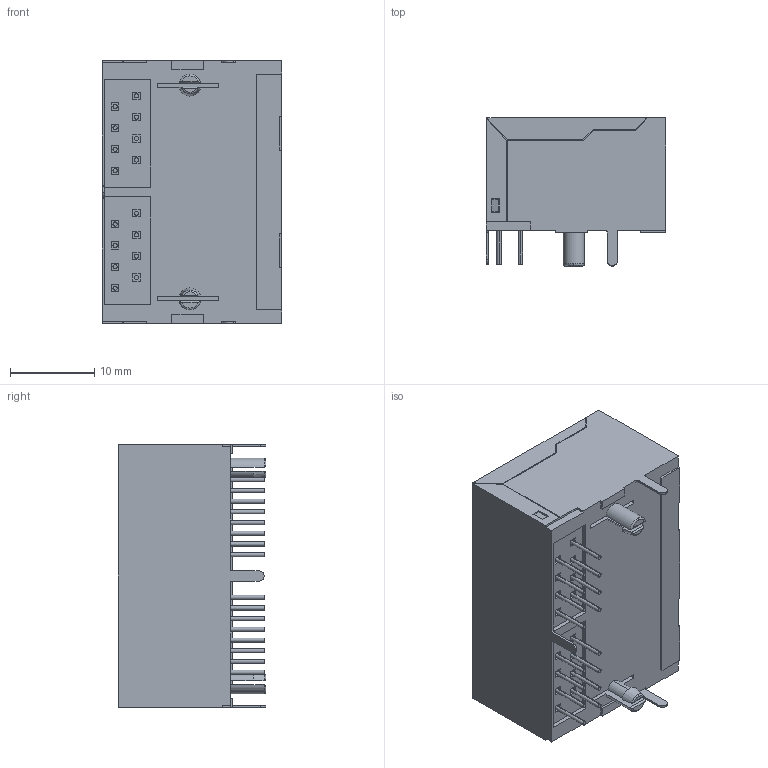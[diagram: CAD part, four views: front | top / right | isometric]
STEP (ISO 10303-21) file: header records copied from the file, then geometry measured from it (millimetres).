
FILE_DESCRIPTION (( 'STEP AP203' ), '1' );
FILE_NAME ('HC-RJ45-059-2-4（2口 无灯无弹-HCTL）.STEP', '2026-04-16T08:22:23', ( '' ), ( '' ), 'SwSTEP 2.0', 'SolidWorks 2025', '' );
FILE_SCHEMA (( 'CONFIG_CONTROL_DESIGN' ));
Length unit declared in the file: millimetre
Products named in the file (1): HC-RJ45-059-2-4（2口 无灯无弹-HCTL）
Bounding box: 21.3 x 17.56 x 31.24 mm (x, y, z)
Volume: 5952.6 mm3; surface area: 4563.5 mm2
Topology: 1 solids, 1 shells, 342 faces, 902 edges, 600 vertices
Faces by surface type: plane 269, cylinder 65, torus 6, cone 2
Entity records: 10623 total; most frequent: CARTESIAN_POINT 1953, ORIENTED_EDGE 1804, DIRECTION 1708, EDGE_CURVE 902, VECTOR 750, LINE 750, VERTEX_POINT 600, AXIS2_PLACEMENT_3D 479
